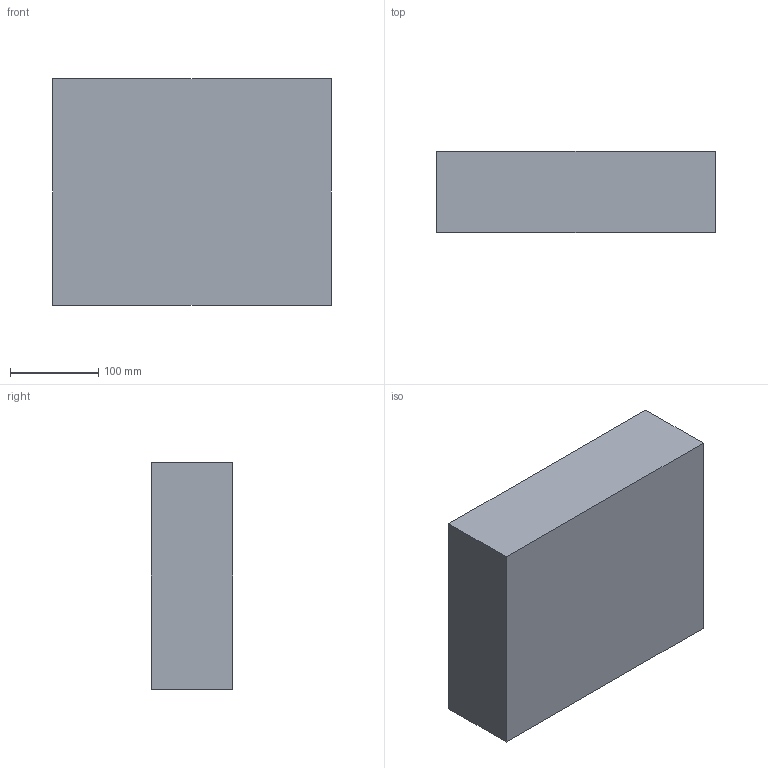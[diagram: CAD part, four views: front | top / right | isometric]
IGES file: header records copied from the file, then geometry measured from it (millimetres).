
Start section: SolidWorks IGES file using analytic representation for surfaces
Global section: file name: C:\Users\chad.chaiyont\My Project\Vault Case\Vault TOR\Vault CAD\PP PID cad\V100 PP\V100 PP tubs\V100 PP BOTTOM TUB 2-5-2024.IGS; native system: SolidWorks 2021; preprocessor: SolidWorks 2021; author: Chad.Chaiyont; date: 240211.195324; units: millimetre
Bounding box: 315.99 x 92.09 x 257.15 mm (x, y, z)
Surface area: 341908.5 mm2 (no closed solid volume)
Topology: 0 solids, 0 shells, 223 faces, 1329 edges, 1312 vertices
Faces by surface type: bspline 223
